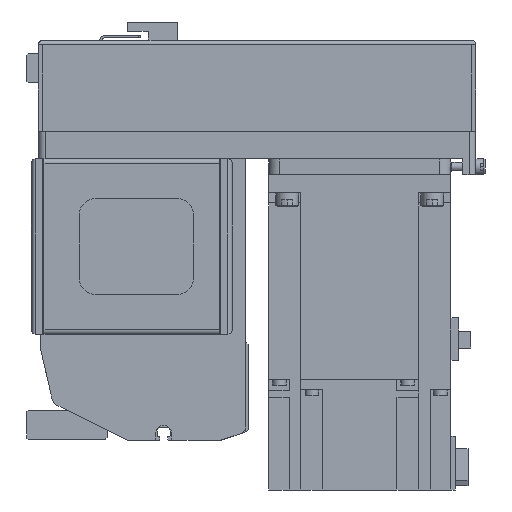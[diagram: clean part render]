
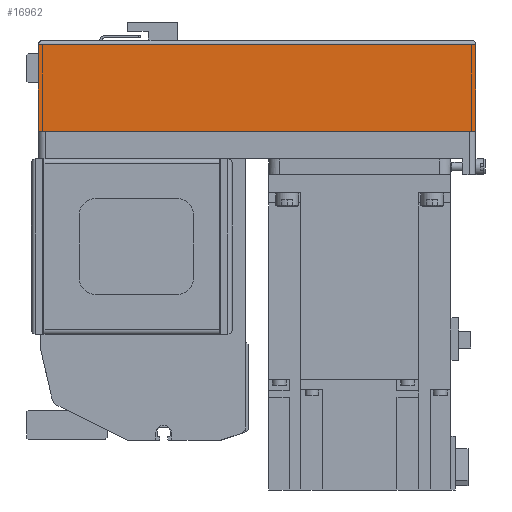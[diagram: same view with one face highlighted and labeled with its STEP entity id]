
A CAD part, left-side view. The second image highlights one B-rep face of the part: STEP entity #16962.
In plain terms, the highlighted planar face has unit normal (-1, 0, 0) as drawn and (0, -1, 0) by its records, which use the part's own axes.
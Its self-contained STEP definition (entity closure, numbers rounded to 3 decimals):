
#2688=ORIENTED_EDGE('',*,*,#6865,.F.);
#2689=ORIENTED_EDGE('',*,*,#6849,.F.);
#2690=ORIENTED_EDGE('',*,*,#6842,.T.);
#2691=ORIENTED_EDGE('',*,*,#6912,.T.);
#6842=EDGE_CURVE('',#9105,#9104,#10840,.T.);
#6849=EDGE_CURVE('',#9105,#9111,#10847,.T.);
#6865=EDGE_CURVE('',#9111,#9125,#10863,.T.);
#6912=EDGE_CURVE('',#9104,#9125,#10884,.T.);
#9104=VERTEX_POINT('',#26081);
#9105=VERTEX_POINT('',#26083);
#9111=VERTEX_POINT('',#26098);
#9125=VERTEX_POINT('',#26131);
#10840=LINE('',#26082,#12446);
#10847=LINE('',#26097,#12453);
#10863=LINE('',#26130,#12469);
#10884=LINE('',#26211,#12490);
#12446=VECTOR('',#20872,1000.);
#12453=VECTOR('',#20883,1000.);
#12469=VECTOR('',#20905,1000.);
#12490=VECTOR('',#21014,1000.);
#13914=EDGE_LOOP('',(#2688,#2689,#2690,#2691));
#15166=FACE_BOUND('',#13914,.T.);
#16249=PLANE('',#18193);
#16962=ADVANCED_FACE('',(#15166),#16249,.T.);
#18193=AXIS2_PLACEMENT_3D('',#26212,#21015,#21016);
#20872=DIRECTION('',(0.,0.,-1.));
#20883=DIRECTION('',(1.,0.,0.));
#20905=DIRECTION('',(0.,0.,-1.));
#21014=DIRECTION('',(1.,0.,0.));
#21015=DIRECTION('',(0.,-1.,0.));
#21016=DIRECTION('',(0.,0.,-1.));
#26081=CARTESIAN_POINT('',(-192.,-40.,-50.));
#26082=CARTESIAN_POINT('',(-192.,-40.,-12.1));
#26083=CARTESIAN_POINT('',(-192.,-40.,-12.1));
#26097=CARTESIAN_POINT('',(-192.,-40.,-12.1));
#26098=CARTESIAN_POINT('',(0.,-40.,-12.1));
#26130=CARTESIAN_POINT('',(0.,-40.,-12.1));
#26131=CARTESIAN_POINT('',(0.,-40.,-50.));
#26211=CARTESIAN_POINT('',(-192.,-40.,-50.));
#26212=CARTESIAN_POINT('',(-192.,-40.,-12.1));
